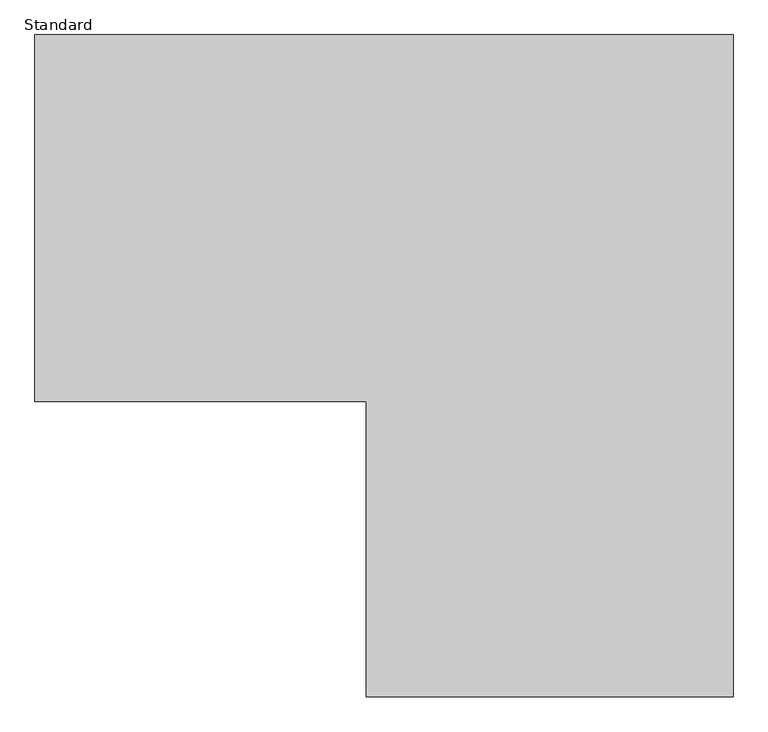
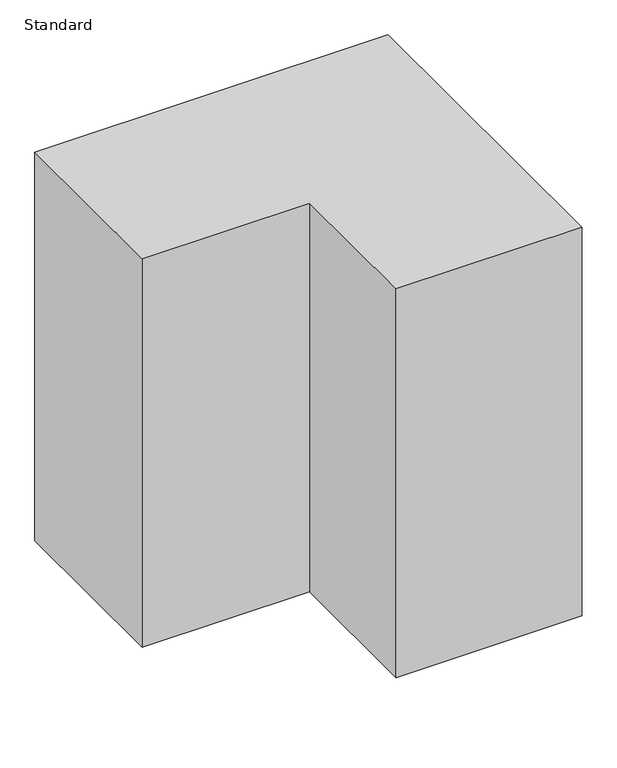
"""IFC4 building model written with IfcOpenShell, lengths in millimetres: proxy geometry, Clearance-Door-Circulation-AS1428.1-2021-Duracube : Standard."""

import ifcopenshell
import ifcopenshell.guid

model = None  # the IFC model being written
_history = None  # IfcOwnerHistory: only IFC2X3 demands one
_inside = {}  # id of a spatial element -> (the spatial element, [elements in it])
_under = {}  # id of a project, library or spatial element -> (it, [spatial elements below it])
_declared = {}  # id of a project -> (the project, [libraries it declares])
_typed = {}  # id of a type object -> (the type object, [elements of that type])
_made_of = {}  # id of a material, layer set ... -> (it, [elements and type objects made of it])


def new_model(schema):
    """Start an empty IFC model of exactly this schema.

    Asked for "IFC4X3", IfcOpenShell would pick the latest addendum, in which some entities
    have other attributes; the version numbers below select the first issue.
    IFC2X3 requires an IfcOwnerHistory on every rooted entity: one is made here for all.
    """
    global model, _history
    if schema == "IFC4X3":
        model = ifcopenshell.file(schema_version=(4, 3, 0, 0))
    else:
        model = ifcopenshell.file(schema=schema)
    _inside.clear()
    _under.clear()
    _declared.clear()
    _typed.clear()
    _made_of.clear()
    _history = None
    if model.schema == "IFC2X3":
        org = make("IfcOrganization", Name="unknown")
        user = make(
            "IfcPersonAndOrganization",
            ThePerson=make("IfcPerson", FamilyName="unknown"),
            TheOrganization=org,
        )
        app = make(
            "IfcApplication",
            ApplicationDeveloper=org,
            Version="unknown",
            ApplicationFullName="unknown",
            ApplicationIdentifier="unknown",
        )
        _history = make(
            "IfcOwnerHistory",
            OwningUser=user,
            OwningApplication=app,
            ChangeAction="ADDED",
            CreationDate=0,
        )
    return model


def make(cls, **values):
    """One entity of the class cls with the attributes given. An attribute that is None is left unset."""
    return model.create_entity(
        cls, **{name: value for name, value in values.items() if value is not None}
    )


def rooted(cls, **values):
    """An entity with a GlobalId (a new one), such as an element, a storey or a relation."""
    return make(cls, GlobalId=ifcopenshell.guid.new(), OwnerHistory=_history, **values)


def si_unit(unit_type, name, prefix=None):
    """IfcSIUnit, for example si_unit("LENGTHUNIT", "METRE", prefix="MILLI")."""
    return make("IfcSIUnit", UnitType=unit_type, Prefix=prefix, Name=name)


def assignment(units):
    """IfcUnitAssignment: the units of a project."""
    return None if units is None else make("IfcUnitAssignment", Units=units)


def point(xyz):
    """IfcCartesianPoint."""
    return None if xyz is None else make("IfcCartesianPoint", Coordinates=xyz)


def direction(xyz):
    """IfcDirection."""
    return None if xyz is None else make("IfcDirection", DirectionRatios=xyz)


def frame(location, z_axis=None, x_axis=None):
    """IfcAxis2Placement3D, a coordinate frame: its origin and axes. An axis left out is left unset."""
    return make(
        "IfcAxis2Placement3D",
        Location=point(location),
        Axis=direction(z_axis),
        RefDirection=direction(x_axis),
    )


def origin():
    """The frame at (0, 0, 0) with its axes left unset."""
    return frame((0.0, 0.0, 0.0))


def origin_with_axes():
    """The frame at (0, 0, 0) with the z axis (0, 0, 1) and the x axis (1, 0, 0) written out."""
    return frame((0.0, 0.0, 0.0), z_axis=(0.0, 0.0, 1.0), x_axis=(1.0, 0.0, 0.0))


def place(relative_to, where):
    """IfcLocalPlacement: puts the frame where relative to a parent placement (None: the world)."""
    return make(
        "IfcLocalPlacement", PlacementRelTo=relative_to, RelativePlacement=where
    )


def context(
    kind, dimensions, precision=None, world=None, true_north=None, identifier=None
):
    """IfcGeometricRepresentationContext, for example the 3D "Model" context."""
    return make(
        "IfcGeometricRepresentationContext",
        ContextIdentifier=identifier,
        ContextType=kind,
        CoordinateSpaceDimension=dimensions,
        Precision=precision,
        WorldCoordinateSystem=world,
        TrueNorth=true_north,
    )


def project(units=None, contexts=None):
    """IfcProject with its units and contexts."""
    return rooted(
        "IfcProject",
        Name="project",
        RepresentationContexts=contexts,
        UnitsInContext=assignment(units),
    )


def spatial(cls, under=None, at=None, **own):
    """A site, building, storey or space (cls), placed at a placement, below another one or the project."""
    s = rooted(cls, ObjectPlacement=at, **own)
    if under is not None:
        _under.setdefault(under.id(), (under, []))[1].append(s)
    return s


def polyline(points):
    """IfcPolyline through the points."""
    return make("IfcPolyline", Points=[point(p) for p in points])


def outline(outer, holes=None, kind="AREA"):
    """IfcArbitraryClosedProfileDef: a profile drawn as a closed curve; with holes, ...WithVoids."""
    if holes is None:
        return make("IfcArbitraryClosedProfileDef", ProfileType=kind, OuterCurve=outer)
    return make(
        "IfcArbitraryProfileDefWithVoids",
        ProfileType=kind,
        OuterCurve=outer,
        InnerCurves=holes,
    )


def extrude(swept, where, along, depth):
    """IfcExtrudedAreaSolid: the profile swept, set in the frame where, extruded along a direction by depth."""
    return make(
        "IfcExtrudedAreaSolid",
        SweptArea=swept,
        Position=where,
        ExtrudedDirection=direction(along),
        Depth=depth,
    )


def shape(context_of_items, identifier, shape_type, items):
    """IfcShapeRepresentation: the items that make up one representation, for example the "Body"."""
    return make(
        "IfcShapeRepresentation",
        ContextOfItems=context_of_items,
        RepresentationIdentifier=identifier,
        RepresentationType=shape_type,
        Items=items,
    )


def source(mapping_origin, context_of_items, identifier, shape_type, items):
    """IfcRepresentationMap: a shape defined once, which mapped items show again and again."""
    return make(
        "IfcRepresentationMap",
        MappingOrigin=mapping_origin,
        MappedRepresentation=shape(context_of_items, identifier, shape_type, items),
    )


def transform(
    local_origin,
    x_axis=None,
    y_axis=None,
    z_axis=None,
    scale=None,
    scale2=None,
    scale3=None,
    uniform=True,
):
    """IfcCartesianTransformationOperator3D, or its non-uniform kind. x_axis, y_axis, z_axis: its Axis1, 2, 3."""
    if uniform:
        return make(
            "IfcCartesianTransformationOperator3D",
            Axis1=direction(x_axis),
            Axis2=direction(y_axis),
            LocalOrigin=point(local_origin),
            Scale=scale,
            Axis3=direction(z_axis),
        )
    return make(
        "IfcCartesianTransformationOperator3DnonUniform",
        Axis1=direction(x_axis),
        Axis2=direction(y_axis),
        LocalOrigin=point(local_origin),
        Scale=scale,
        Axis3=direction(z_axis),
        Scale2=scale2,
        Scale3=scale3,
    )


def mapped(mapping_source, mapping_target):
    """IfcMappedItem: shows the shape of a source again, moved by a transform."""
    return make(
        "IfcMappedItem", MappingSource=mapping_source, MappingTarget=mapping_target
    )


def made_of(thing, what):
    """Note that an element or type object is made of a material, layer set ...; save() writes the relation."""
    if what is not None:
        _made_of.setdefault(what.id(), (what, []))[1].append(thing)
    return thing


def element(
    cls,
    number,
    at=None,
    inside=None,
    cuts=None,
    type_object=None,
    material=None,
    context=None,
    identifier="Body",
    shape_type=None,
    held_by="IfcProductDefinitionShape",
    body=None,
    shapes=None,
    **own,
):
    """One element of the class cls, such as IfcWall. Its Tag is "e" and its number.

    at: its placement. inside: the storey or other place that contains it. cuts: it is an
    opening in that element (IfcRelVoidsElement). A single representation is given by context,
    identifier, shape_type and body (its items); several are given by shapes. held_by: the class
    of the entity that holds the representations. save() writes the other relations.
    """
    e = rooted(cls, Tag="e%d" % number, ObjectPlacement=at, **own)
    if body is not None:
        shapes = [shape(context, identifier, shape_type, body)]
    if shapes is not None:
        e.Representation = make(held_by, Representations=shapes)
    if inside is not None:
        _inside.setdefault(inside.id(), (inside, []))[1].append(e)
    if cuts is not None:
        rooted(
            "IfcRelVoidsElement", RelatingBuildingElement=cuts, RelatedOpeningElement=e
        )
    if type_object is not None:
        _typed.setdefault(type_object.id(), (type_object, []))[1].append(e)
    return made_of(e, material)


def aggregate(whole, parts):
    """IfcRelAggregates: a whole, such as a stair, and the parts it consists of."""
    return rooted("IfcRelAggregates", RelatingObject=whole, RelatedObjects=parts)


def save(model, path):
    """Write the relations noted so far, then the file.

    IfcRelAggregates (storeys below a building ...), IfcRelContainedInSpatialStructure (elements
    in a storey), IfcRelDefinesByType, IfcRelAssociatesMaterial and IfcRelDeclares: one each for
    every whole, place, type object, material and project.
    """
    for whole, parts in _under.values():
        aggregate(whole, parts)
    for where, things in _inside.values():
        rooted(
            "IfcRelContainedInSpatialStructure",
            RelatedElements=things,
            RelatingStructure=where,
        )
    for kind, things in _typed.values():
        rooted("IfcRelDefinesByType", RelatedObjects=things, RelatingType=kind)
    for what, things in _made_of.values():
        rooted("IfcRelAssociatesMaterial", RelatedObjects=things, RelatingMaterial=what)
    for by, libraries in _declared.values():
        rooted("IfcRelDeclares", RelatingContext=by, RelatedDefinitions=libraries)
    model.write(path)


def standard_7e643c00(model_context):
    return source(origin(), model_context, "Body", "SweptSolid", [
        extrude(outline(polyline([(450.0, 812.5), (450.0, -812.5), (-450.0, -812.5), (-450.0, -87.5), (-1262.5, -87.5), (-1262.5, 812.5), (450.0, 812.5)])), origin_with_axes(), (0.0, 0.0, 1.0), 1990.0),
    ])


if __name__ == "__main__":
    model = new_model("IFC4")
    model_context = context("Model", 3, world=origin())
    ifc_project = project(units=[si_unit("LENGTHUNIT", "METRE", prefix="MILLI")], contexts=[model_context])
    site = spatial("IfcSite", under=ifc_project)
    building = spatial("IfcBuilding", under=site)
    placement = place(None, origin())
    standard_shape = standard_7e643c00(model_context)
    element("IfcBuildingElementProxy", 1, Name="Clearance-Door-Circulation-AS1428.1-2021-Duracube : Standard", ObjectType="Clearance-Door-Circulation-AS1428.1-2021-Duracube : Standard", at=placement, inside=building, context=model_context, shape_type="MappedRepresentation", body=[
        mapped(standard_shape, transform((0.0, 0.0, 0.0), x_axis=(1.0, 0.0, 0.0), y_axis=(0.0, 1.0, 0.0), z_axis=(0.0, 0.0, 1.0))),
    ])
    save(model, "model.ifc")
